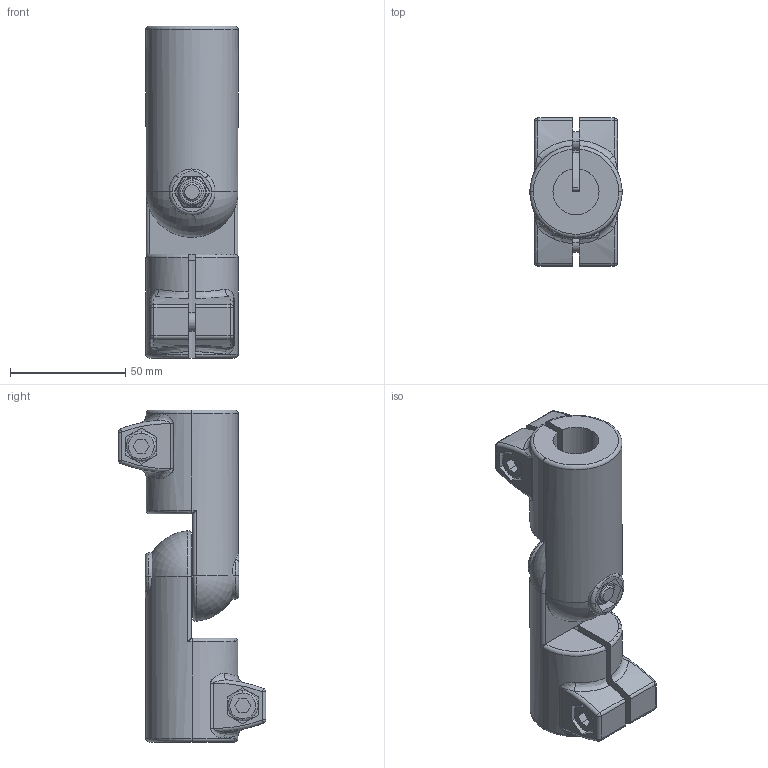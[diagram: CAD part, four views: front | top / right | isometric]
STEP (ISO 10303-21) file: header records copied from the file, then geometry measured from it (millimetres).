
FILE_DESCRIPTION (( 'STEP AP214' ), '1' );
FILE_NAME ('286-B20-B25-T-2-SW.step', '2021-12-02T12:14:16', ( '' ), ( '' ), 'SwSTEP 2.0', 'SolidWorks 2019', '' );
FILE_SCHEMA (( 'AUTOMOTIVE_DESIGN' ));
Length unit declared in the file: millimetre
Products named in the file (3): WB276^WB286_B20-IV-2-SW; 286-B20-B25-T-2-SW; WB276_1^WB286_B25-AV-2-SW
Assembly tree (2 placements, depth 2):
  286-B20-B25-T-2-SW
    WB276^WB286_B20-IV-2-SW
    WB276_1^WB286_B25-AV-2-SW
Bounding box: 40 x 64 x 144 mm (x, y, z)
Volume: 141722.4 mm3; surface area: 43221.7 mm2
Topology: 2 solids, 2 shells, 514 faces, 1304 edges, 814 vertices
Faces by surface type: plane 304, cylinder 108, torus 50, cone 24, bspline 20, sphere 8
Entity records: 19158 total; most frequent: CARTESIAN_POINT 5891, ORIENTED_EDGE 2592, DIRECTION 2422, EDGE_CURVE 1296, AXIS2_PLACEMENT_3D 931, VERTEX_POINT 814, LINE 560, VECTOR 560
